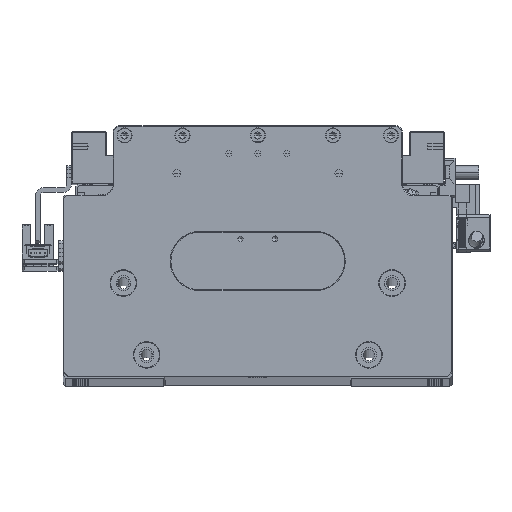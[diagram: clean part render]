
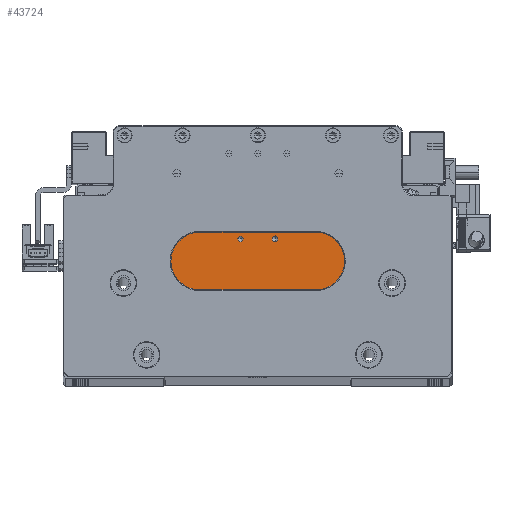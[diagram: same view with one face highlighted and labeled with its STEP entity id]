
A CAD part, top view. The second image highlights one B-rep face of the part: STEP entity #43724.
In plain terms, the highlighted planar face has unit normal (0, 0, 1).
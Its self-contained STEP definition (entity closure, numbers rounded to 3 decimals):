
#1700 = VECTOR ( 'NONE', #39610, 1000. ) ;
#2049 = VERTEX_POINT ( 'NONE', #72209 ) ;
#2250 = CARTESIAN_POINT ( 'NONE',  ( -33.5, 0., 125. ) ) ;
#2828 = ORIENTED_EDGE ( 'NONE', *, *, #31358, .T. ) ;
#4683 = LINE ( 'NONE', #30152, #1700 ) ;
#5698 = EDGE_CURVE ( 'NONE', #96506, #101882, #22114, .T. ) ;
#5725 = CARTESIAN_POINT ( 'NONE',  ( 45., -8., 125. ) ) ;
#6960 = EDGE_CURVE ( 'NONE', #77790, #45829, #60129, .T. ) ;
#8054 = LINE ( 'NONE', #74298, #105308 ) ;
#8122 = DIRECTION ( 'NONE',  ( 1., 0., 0. ) ) ;
#8919 = AXIS2_PLACEMENT_3D ( 'NONE', #120860, #64604, #8122 ) ;
#9497 = DIRECTION ( 'NONE',  ( 1., 0., 0. ) ) ;
#9558 = ORIENTED_EDGE ( 'NONE', *, *, #6960, .F. ) ;
#12179 = DIRECTION ( 'NONE',  ( 0., 0., -1. ) ) ;
#13017 = CIRCLE ( 'NONE', #45912, 1.25 ) ;
#13291 = FACE_BOUND ( 'NONE', #69817, .T. ) ;
#14311 = CARTESIAN_POINT ( 'NONE',  ( -45., -8., 125. ) ) ;
#14722 = VERTEX_POINT ( 'NONE', #14311 ) ;
#14960 = EDGE_CURVE ( 'NONE', #19630, #2049, #96620, .T. ) ;
#16441 = VECTOR ( 'NONE', #36309, 1000. ) ;
#18408 = CARTESIAN_POINT ( 'NONE',  ( -6.25, -8., 125. ) ) ;
#19224 = FACE_BOUND ( 'NONE', #43571, .T. ) ;
#19630 = VERTEX_POINT ( 'NONE', #2250 ) ;
#21482 = VECTOR ( 'NONE', #93767, 1000. ) ;
#22114 = CIRCLE ( 'NONE', #45352, 1.25 ) ;
#26031 = ORIENTED_EDGE ( 'NONE', *, *, #5698, .T. ) ;
#26144 = VERTEX_POINT ( 'NONE', #31175 ) ;
#26892 = CARTESIAN_POINT ( 'NONE',  ( -45., 0., 125. ) ) ;
#27753 = CARTESIAN_POINT ( 'NONE',  ( -45., -40.2, 125. ) ) ;
#27843 = CARTESIAN_POINT ( 'NONE',  ( -33.5, 0., 125. ) ) ;
#28624 = EDGE_CURVE ( 'NONE', #37938, #43905, #13017, .T. ) ;
#30152 = CARTESIAN_POINT ( 'NONE',  ( 0., -8., 125. ) ) ;
#30414 = AXIS2_PLACEMENT_3D ( 'NONE', #45149, #54600, #120435 ) ;
#31175 = CARTESIAN_POINT ( 'NONE',  ( 33.5, -8., 125. ) ) ;
#31358 = EDGE_CURVE ( 'NONE', #53024, #19630, #53866, .T. ) ;
#33130 = AXIS2_PLACEMENT_3D ( 'NONE', #50058, #115937, #59552 ) ;
#36309 = DIRECTION ( 'NONE',  ( 0., -1., 0. ) ) ;
#37938 = VERTEX_POINT ( 'NONE', #48738 ) ;
#38210 = EDGE_CURVE ( 'NONE', #26144, #53024, #8054, .T. ) ;
#38338 = FACE_OUTER_BOUND ( 'NONE', #66096, .T. ) ;
#39610 = DIRECTION ( 'NONE',  ( -1., 0., 0. ) ) ;
#42140 = VECTOR ( 'NONE', #93807, 1000. ) ;
#43571 = EDGE_LOOP ( 'NONE', ( #26031, #81363 ) ) ;
#43724 = ADVANCED_FACE ( 'NONE', ( #38338, #19224, #13291 ), #82668, .T. ) ;
#43905 = VERTEX_POINT ( 'NONE', #18408 ) ;
#45149 = CARTESIAN_POINT ( 'NONE',  ( 0., 0., 125. ) ) ;
#45352 = AXIS2_PLACEMENT_3D ( 'NONE', #68656, #12179, #78130 ) ;
#45829 = VERTEX_POINT ( 'NONE', #27753 ) ;
#45912 = AXIS2_PLACEMENT_3D ( 'NONE', #50033, #65991, #9497 ) ;
#46210 = DIRECTION ( 'NONE',  ( 0., 1., 0. ) ) ;
#46992 = LINE ( 'NONE', #65594, #91259 ) ;
#48100 = EDGE_CURVE ( 'NONE', #101882, #96506, #83169, .T. ) ;
#48738 = CARTESIAN_POINT ( 'NONE',  ( -8.75, -8., 125. ) ) ;
#50033 = CARTESIAN_POINT ( 'NONE',  ( -7.5, -8., 125. ) ) ;
#50058 = CARTESIAN_POINT ( 'NONE',  ( 7.5, -8., 125. ) ) ;
#50908 = VECTOR ( 'NONE', #120279, 1000. ) ;
#53024 = VERTEX_POINT ( 'NONE', #88474 ) ;
#53866 = LINE ( 'NONE', #54439, #50908 ) ;
#54439 = CARTESIAN_POINT ( 'NONE',  ( 0., 0., 125. ) ) ;
#54600 = DIRECTION ( 'NONE',  ( 0., 0., 1. ) ) ;
#54742 = ORIENTED_EDGE ( 'NONE', *, *, #83865, .T. ) ;
#55567 = VERTEX_POINT ( 'NONE', #5725 ) ;
#55843 = CARTESIAN_POINT ( 'NONE',  ( 0., -8., 125. ) ) ;
#58868 = CARTESIAN_POINT ( 'NONE',  ( 8.75, -8., 125. ) ) ;
#59552 = DIRECTION ( 'NONE',  ( 1., 0., 0. ) ) ;
#59970 = CARTESIAN_POINT ( 'NONE',  ( 45., -40.2, 125. ) ) ;
#60129 = LINE ( 'NONE', #78643, #82276 ) ;
#64490 = ORIENTED_EDGE ( 'NONE', *, *, #28624, .T. ) ;
#64604 = DIRECTION ( 'NONE',  ( 0., 0., -1. ) ) ;
#65594 = CARTESIAN_POINT ( 'NONE',  ( 45., 0., 125. ) ) ;
#65991 = DIRECTION ( 'NONE',  ( 0., 0., -1. ) ) ;
#66096 = EDGE_LOOP ( 'NONE', ( #94390, #54742, #9558, #80836, #114809, #78851, #2828, #99112 ) ) ;
#68656 = CARTESIAN_POINT ( 'NONE',  ( 7.5, -8., 125. ) ) ;
#69817 = EDGE_LOOP ( 'NONE', ( #120783, #64490 ) ) ;
#72209 = CARTESIAN_POINT ( 'NONE',  ( -33.5, -8., 125. ) ) ;
#74298 = CARTESIAN_POINT ( 'NONE',  ( 33.5, 0., 125. ) ) ;
#75056 = DIRECTION ( 'NONE',  ( 0., 1., 0. ) ) ;
#77790 = VERTEX_POINT ( 'NONE', #59970 ) ;
#78130 = DIRECTION ( 'NONE',  ( 1., 0., 0. ) ) ;
#78643 = CARTESIAN_POINT ( 'NONE',  ( 45., -40.2, 125. ) ) ;
#78851 = ORIENTED_EDGE ( 'NONE', *, *, #38210, .T. ) ;
#79059 = DIRECTION ( 'NONE',  ( -1., 0., 0. ) ) ;
#80836 = ORIENTED_EDGE ( 'NONE', *, *, #116782, .T. ) ;
#81312 = EDGE_CURVE ( 'NONE', #43905, #37938, #88380, .T. ) ;
#81363 = ORIENTED_EDGE ( 'NONE', *, *, #48100, .T. ) ;
#82276 = VECTOR ( 'NONE', #79059, 1000. ) ;
#82668 = PLANE ( 'NONE',  #30414 ) ;
#83169 = CIRCLE ( 'NONE', #33130, 1.25 ) ;
#83865 = EDGE_CURVE ( 'NONE', #14722, #45829, #91646, .T. ) ;
#88380 = CIRCLE ( 'NONE', #8919, 1.25 ) ;
#88474 = CARTESIAN_POINT ( 'NONE',  ( 33.5, 0., 125. ) ) ;
#91259 = VECTOR ( 'NONE', #75056, 1000. ) ;
#91646 = LINE ( 'NONE', #26892, #16441 ) ;
#93767 = DIRECTION ( 'NONE',  ( 0., -1., 0. ) ) ;
#93807 = DIRECTION ( 'NONE',  ( -1., 0., 0. ) ) ;
#94390 = ORIENTED_EDGE ( 'NONE', *, *, #98084, .T. ) ;
#94836 = EDGE_CURVE ( 'NONE', #55567, #26144, #117215, .T. ) ;
#96506 = VERTEX_POINT ( 'NONE', #58868 ) ;
#96620 = LINE ( 'NONE', #27843, #21482 ) ;
#98084 = EDGE_CURVE ( 'NONE', #2049, #14722, #4683, .T. ) ;
#99112 = ORIENTED_EDGE ( 'NONE', *, *, #14960, .T. ) ;
#101653 = CARTESIAN_POINT ( 'NONE',  ( 6.25, -8., 125. ) ) ;
#101882 = VERTEX_POINT ( 'NONE', #101653 ) ;
#105308 = VECTOR ( 'NONE', #46210, 1000. ) ;
#114809 = ORIENTED_EDGE ( 'NONE', *, *, #94836, .T. ) ;
#115937 = DIRECTION ( 'NONE',  ( 0., 0., -1. ) ) ;
#116782 = EDGE_CURVE ( 'NONE', #77790, #55567, #46992, .T. ) ;
#117215 = LINE ( 'NONE', #55843, #42140 ) ;
#120279 = DIRECTION ( 'NONE',  ( -1., 0., 0. ) ) ;
#120435 = DIRECTION ( 'NONE',  ( 1., 0., 0. ) ) ;
#120783 = ORIENTED_EDGE ( 'NONE', *, *, #81312, .T. ) ;
#120860 = CARTESIAN_POINT ( 'NONE',  ( -7.5, -8., 125. ) ) ;
